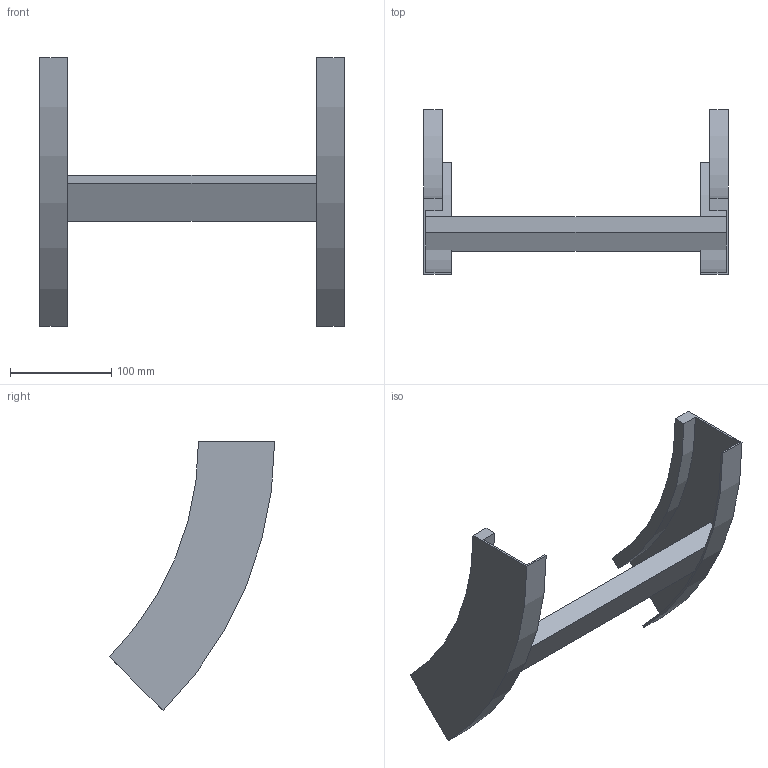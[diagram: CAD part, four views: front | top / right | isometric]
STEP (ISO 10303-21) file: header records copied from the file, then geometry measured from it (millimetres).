
FILE_DESCRIPTION (( 'STEP AP214' ), '1' );
FILE_NAME ('B2X31B3C300XX.step', '2025-03-20T10:10:18', ( '' ), ( '' ), 'SwSTEP 2.0', 'SolidWorks 2023', '' );
FILE_SCHEMA (( 'AUTOMOTIVE_DESIGN' ));
Length unit declared in the file: millimetre
Products named in the file (3): B2_LONGH.SALITA_45°_H75_R300; B2X31B3C300XX; TRAVERSINO_300
Assembly tree (3 placements, depth 2):
  B2X31B3C300XX
    B2_LONGH.SALITA_45°_H75_R300  x2
    TRAVERSINO_300
Bounding box: 300 x 162.87 x 265.17 mm (x, y, z)
Volume: 440942.9 mm3; surface area: 165401.3 mm2
Topology: 3 solids, 3 shells, 26 faces, 60 edges, 40 vertices
Faces by surface type: plane 18, cylinder 8
Entity records: 544 total; most frequent: DIRECTION 88, CARTESIAN_POINT 82, ORIENTED_EDGE 72, EDGE_CURVE 36, AXIS2_PLACEMENT_3D 30, LINE 28, VECTOR 28, VERTEX_POINT 24
